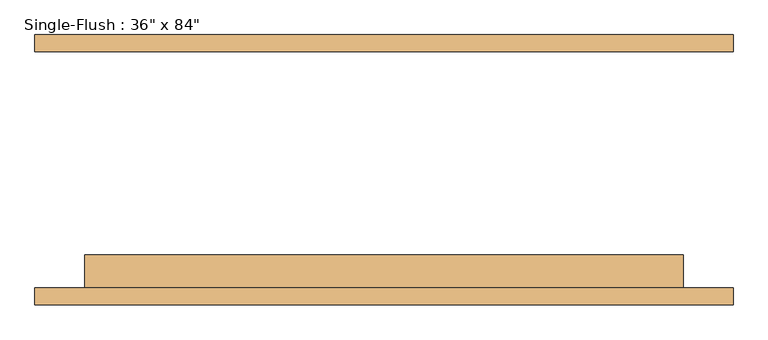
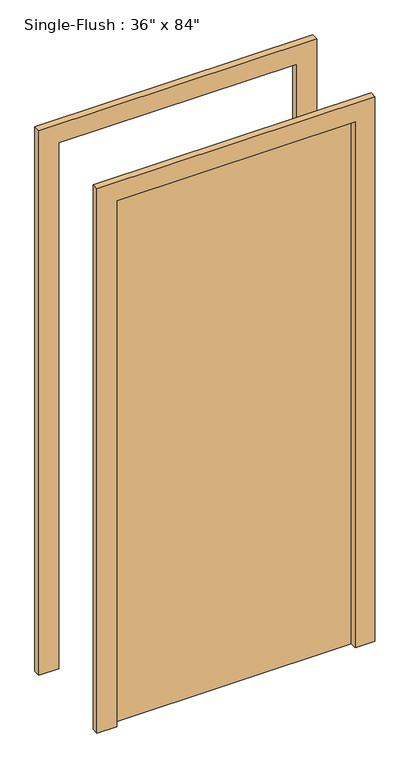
"""IFC4 building model written with IfcOpenShell, lengths in millimetres: door geometry."""

import ifcopenshell
import ifcopenshell.guid

model = None  # the IFC model being written
_history = None  # IfcOwnerHistory: only IFC2X3 demands one
_inside = {}  # id of a spatial element -> (the spatial element, [elements in it])
_under = {}  # id of a project, library or spatial element -> (it, [spatial elements below it])
_declared = {}  # id of a project -> (the project, [libraries it declares])
_typed = {}  # id of a type object -> (the type object, [elements of that type])
_made_of = {}  # id of a material, layer set ... -> (it, [elements and type objects made of it])


def new_model(schema):
    """Start an empty IFC model of exactly this schema.

    Asked for "IFC4X3", IfcOpenShell would pick the latest addendum, in which some entities
    have other attributes; the version numbers below select the first issue.
    IFC2X3 requires an IfcOwnerHistory on every rooted entity: one is made here for all.
    """
    global model, _history
    if schema == "IFC4X3":
        model = ifcopenshell.file(schema_version=(4, 3, 0, 0))
    else:
        model = ifcopenshell.file(schema=schema)
    _inside.clear()
    _under.clear()
    _declared.clear()
    _typed.clear()
    _made_of.clear()
    _history = None
    if model.schema == "IFC2X3":
        org = make("IfcOrganization", Name="unknown")
        user = make(
            "IfcPersonAndOrganization",
            ThePerson=make("IfcPerson", FamilyName="unknown"),
            TheOrganization=org,
        )
        app = make(
            "IfcApplication",
            ApplicationDeveloper=org,
            Version="unknown",
            ApplicationFullName="unknown",
            ApplicationIdentifier="unknown",
        )
        _history = make(
            "IfcOwnerHistory",
            OwningUser=user,
            OwningApplication=app,
            ChangeAction="ADDED",
            CreationDate=0,
        )
    return model


def make(cls, **values):
    """One entity of the class cls with the attributes given. An attribute that is None is left unset."""
    return model.create_entity(
        cls, **{name: value for name, value in values.items() if value is not None}
    )


def rooted(cls, **values):
    """An entity with a GlobalId (a new one), such as an element, a storey or a relation."""
    return make(cls, GlobalId=ifcopenshell.guid.new(), OwnerHistory=_history, **values)


def si_unit(unit_type, name, prefix=None):
    """IfcSIUnit, for example si_unit("LENGTHUNIT", "METRE", prefix="MILLI")."""
    return make("IfcSIUnit", UnitType=unit_type, Prefix=prefix, Name=name)


def assignment(units):
    """IfcUnitAssignment: the units of a project."""
    return None if units is None else make("IfcUnitAssignment", Units=units)


def point(xyz):
    """IfcCartesianPoint."""
    return None if xyz is None else make("IfcCartesianPoint", Coordinates=xyz)


def direction(xyz):
    """IfcDirection."""
    return None if xyz is None else make("IfcDirection", DirectionRatios=xyz)


def frame(location, z_axis=None, x_axis=None):
    """IfcAxis2Placement3D, a coordinate frame: its origin and axes. An axis left out is left unset."""
    return make(
        "IfcAxis2Placement3D",
        Location=point(location),
        Axis=direction(z_axis),
        RefDirection=direction(x_axis),
    )


def origin():
    """The frame at (0, 0, 0) with its axes left unset."""
    return frame((0.0, 0.0, 0.0))


def origin_with_axes():
    """The frame at (0, 0, 0) with the z axis (0, 0, 1) and the x axis (1, 0, 0) written out."""
    return frame((0.0, 0.0, 0.0), z_axis=(0.0, 0.0, 1.0), x_axis=(1.0, 0.0, 0.0))


def place(relative_to, where):
    """IfcLocalPlacement: puts the frame where relative to a parent placement (None: the world)."""
    return make(
        "IfcLocalPlacement", PlacementRelTo=relative_to, RelativePlacement=where
    )


def context(
    kind, dimensions, precision=None, world=None, true_north=None, identifier=None
):
    """IfcGeometricRepresentationContext, for example the 3D "Model" context."""
    return make(
        "IfcGeometricRepresentationContext",
        ContextIdentifier=identifier,
        ContextType=kind,
        CoordinateSpaceDimension=dimensions,
        Precision=precision,
        WorldCoordinateSystem=world,
        TrueNorth=true_north,
    )


def project(units=None, contexts=None):
    """IfcProject with its units and contexts."""
    return rooted(
        "IfcProject",
        Name="project",
        RepresentationContexts=contexts,
        UnitsInContext=assignment(units),
    )


def spatial(cls, under=None, at=None, **own):
    """A site, building, storey or space (cls), placed at a placement, below another one or the project."""
    s = rooted(cls, ObjectPlacement=at, **own)
    if under is not None:
        _under.setdefault(under.id(), (under, []))[1].append(s)
    return s


def polyline(points):
    """IfcPolyline through the points."""
    return make("IfcPolyline", Points=[point(p) for p in points])


def outline(outer, holes=None, kind="AREA"):
    """IfcArbitraryClosedProfileDef: a profile drawn as a closed curve; with holes, ...WithVoids."""
    if holes is None:
        return make("IfcArbitraryClosedProfileDef", ProfileType=kind, OuterCurve=outer)
    return make(
        "IfcArbitraryProfileDefWithVoids",
        ProfileType=kind,
        OuterCurve=outer,
        InnerCurves=holes,
    )


def extrude(swept, where, along, depth):
    """IfcExtrudedAreaSolid: the profile swept, set in the frame where, extruded along a direction by depth."""
    return make(
        "IfcExtrudedAreaSolid",
        SweptArea=swept,
        Position=where,
        ExtrudedDirection=direction(along),
        Depth=depth,
    )


def shape(context_of_items, identifier, shape_type, items):
    """IfcShapeRepresentation: the items that make up one representation, for example the "Body"."""
    return make(
        "IfcShapeRepresentation",
        ContextOfItems=context_of_items,
        RepresentationIdentifier=identifier,
        RepresentationType=shape_type,
        Items=items,
    )


def source(mapping_origin, context_of_items, identifier, shape_type, items):
    """IfcRepresentationMap: a shape defined once, which mapped items show again and again."""
    return make(
        "IfcRepresentationMap",
        MappingOrigin=mapping_origin,
        MappedRepresentation=shape(context_of_items, identifier, shape_type, items),
    )


def transform(
    local_origin,
    x_axis=None,
    y_axis=None,
    z_axis=None,
    scale=None,
    scale2=None,
    scale3=None,
    uniform=True,
):
    """IfcCartesianTransformationOperator3D, or its non-uniform kind. x_axis, y_axis, z_axis: its Axis1, 2, 3."""
    if uniform:
        return make(
            "IfcCartesianTransformationOperator3D",
            Axis1=direction(x_axis),
            Axis2=direction(y_axis),
            LocalOrigin=point(local_origin),
            Scale=scale,
            Axis3=direction(z_axis),
        )
    return make(
        "IfcCartesianTransformationOperator3DnonUniform",
        Axis1=direction(x_axis),
        Axis2=direction(y_axis),
        LocalOrigin=point(local_origin),
        Scale=scale,
        Axis3=direction(z_axis),
        Scale2=scale2,
        Scale3=scale3,
    )


def mapped(mapping_source, mapping_target):
    """IfcMappedItem: shows the shape of a source again, moved by a transform."""
    return make(
        "IfcMappedItem", MappingSource=mapping_source, MappingTarget=mapping_target
    )


def made_of(thing, what):
    """Note that an element or type object is made of a material, layer set ...; save() writes the relation."""
    if what is not None:
        _made_of.setdefault(what.id(), (what, []))[1].append(thing)
    return thing


def element(
    cls,
    number,
    at=None,
    inside=None,
    cuts=None,
    type_object=None,
    material=None,
    context=None,
    identifier="Body",
    shape_type=None,
    held_by="IfcProductDefinitionShape",
    body=None,
    shapes=None,
    **own,
):
    """One element of the class cls, such as IfcWall. Its Tag is "e" and its number.

    at: its placement. inside: the storey or other place that contains it. cuts: it is an
    opening in that element (IfcRelVoidsElement). A single representation is given by context,
    identifier, shape_type and body (its items); several are given by shapes. held_by: the class
    of the entity that holds the representations. save() writes the other relations.
    """
    e = rooted(cls, Tag="e%d" % number, ObjectPlacement=at, **own)
    if body is not None:
        shapes = [shape(context, identifier, shape_type, body)]
    if shapes is not None:
        e.Representation = make(held_by, Representations=shapes)
    if inside is not None:
        _inside.setdefault(inside.id(), (inside, []))[1].append(e)
    if cuts is not None:
        rooted(
            "IfcRelVoidsElement", RelatingBuildingElement=cuts, RelatedOpeningElement=e
        )
    if type_object is not None:
        _typed.setdefault(type_object.id(), (type_object, []))[1].append(e)
    return made_of(e, material)


def aggregate(whole, parts):
    """IfcRelAggregates: a whole, such as a stair, and the parts it consists of."""
    return rooted("IfcRelAggregates", RelatingObject=whole, RelatedObjects=parts)


def save(model, path):
    """Write the relations noted so far, then the file.

    IfcRelAggregates (storeys below a building ...), IfcRelContainedInSpatialStructure (elements
    in a storey), IfcRelDefinesByType, IfcRelAssociatesMaterial and IfcRelDeclares: one each for
    every whole, place, type object, material and project.
    """
    for whole, parts in _under.values():
        aggregate(whole, parts)
    for where, things in _inside.values():
        rooted(
            "IfcRelContainedInSpatialStructure",
            RelatedElements=things,
            RelatingStructure=where,
        )
    for kind, things in _typed.values():
        rooted("IfcRelDefinesByType", RelatedObjects=things, RelatingType=kind)
    for what, things in _made_of.values():
        rooted("IfcRelAssociatesMaterial", RelatedObjects=things, RelatingMaterial=what)
    for by, libraries in _declared.values():
        rooted("IfcRelDeclares", RelatingContext=by, RelatedDefinitions=libraries)
    model.write(path)


def door_5f36cde9(model_context):
    return source(origin(), model_context, "Body", "SweptSolid", [
        extrude(outline(polyline([(2209.8, -533.4), (0.0, -533.4), (0.0, -457.2), (2133.6, -457.2), (2133.6, 457.2), (0.0, 457.2), (0.0, 533.4), (2209.8, 533.4), (2209.8, -533.4)])), frame((0.0, -206.375, 0.0), z_axis=(0.0, 1.0, 0.0), x_axis=(0.0, 0.0, 1.0)), (0.0, 0.0, 1.0), 25.4),
        extrude(outline(polyline([(2209.8, 533.4), (2209.8, -533.4), (0.0, -533.4), (0.0, -457.2), (2133.6, -457.2), (2133.6, 457.2), (0.0, 457.2), (0.0, 533.4), (2209.8, 533.4)])), frame((0.0, 180.975, 0.0), z_axis=(0.0, 1.0, 0.0), x_axis=(0.0, 0.0, 1.0)), (0.0, 0.0, 1.0), 25.4),
        extrude(outline(polyline([(457.2, -130.175), (457.2, -180.975), (-457.2, -180.975), (-457.2, -130.175), (457.2, -130.175)])), origin_with_axes(), (0.0, 0.0, 1.0), 2133.6),
    ])


if __name__ == "__main__":
    model = new_model("IFC4")
    model_context = context("Model", 3, world=origin())
    ifc_project = project(units=[si_unit("LENGTHUNIT", "METRE", prefix="MILLI")], contexts=[model_context])
    site = spatial("IfcSite", under=ifc_project)
    building = spatial("IfcBuilding", under=site)
    placement = place(None, origin())
    door_shape = door_5f36cde9(model_context)
    element("IfcDoor", 1, ObjectType="Single-Flush : 36\" x 84\"", at=placement, inside=building, context=model_context, shape_type="MappedRepresentation", body=[
        mapped(door_shape, transform((0.0, 0.0, 0.0), x_axis=(1.0, 0.0, 0.0), y_axis=(0.0, 1.0, 0.0), z_axis=(0.0, 0.0, 1.0))),
    ])
    save(model, "model.ifc")
